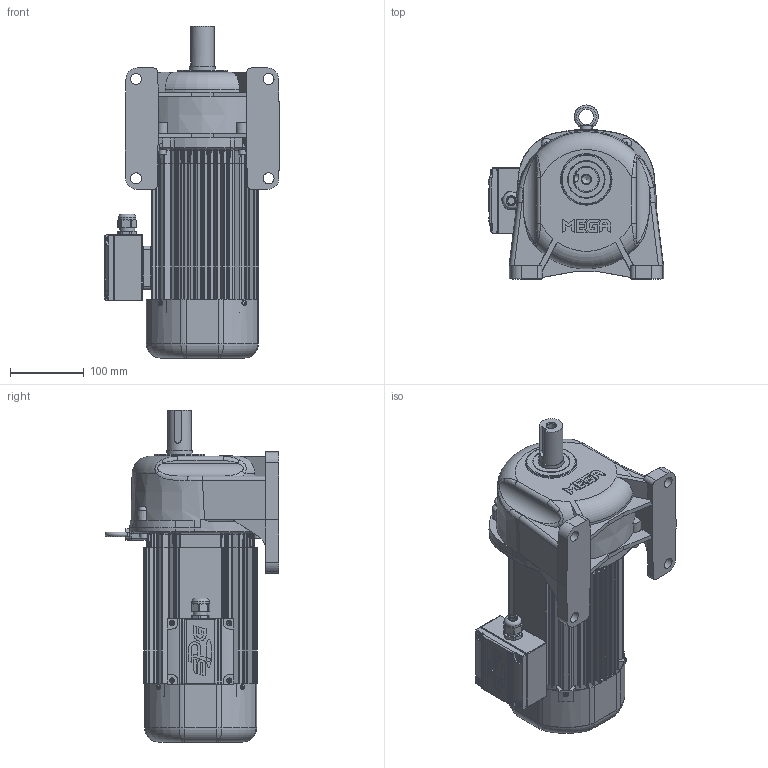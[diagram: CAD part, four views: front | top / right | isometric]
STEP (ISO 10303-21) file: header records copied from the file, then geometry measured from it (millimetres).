
FILE_DESCRIPTION(/* description */ (''),/* implementation_level */ '2;1');
FILE_NAME(/* name */ 'Z:\동력 3D 파일\PML135-(5~100)-PC(D)075[ ]L_(3D).stp',/* time_stamp */ '2021-07-28T09:32:40+09:00',/* author */ ('jaebok'),/* organization */ (''),/* preprocessor_version */ 'ST-DEVELOPER v18.1',/* originating_system */ 'Autodesk Inventor 2022',/* authorisation */ '');
FILE_SCHEMA (('AUTOMOTIVE_DESIGN { 1 0 10303 214 3 1 1 }'));
Length unit declared in the file: millimetre
Products named in the file (1): 부품1
Bounding box: 238 x 236.3 x 451 mm (x, y, z)
Volume: 2983883.2 mm3; surface area: 823361.9 mm2
Topology: 1 solids, 31 shells, 3119 faces, 8036 edges, 4832 vertices
Faces by surface type: plane 1078, cylinder 888, bspline 698, torus 256, cone 123, sphere 76
Full cylindrical faces by diameter (mm): 3.25 x1, 3.6 x4, 4 x17, 4.917 x4, 5 x15, 5.5 x4, 6 x9, 6.8 x5, 7 x13, 8 x7, 9.5 x4, 10 x5, 12 x1, 12.5 x1, 15 x5, 20 x2, 20.6 x1, 21 x2, 22 x1, 23.6 x1, 25 x1, 28 x1, 32 x2, 35 x5, 36 x1, 42 x2, 50 x2, 52 x1, 60 x1, 68 x1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
Entity records: 125036 total; most frequent: CARTESIAN_POINT 50118, ORIENTED_EDGE 15662, DIRECTION 14100, EDGE_CURVE 7831, AXIS2_PLACEMENT_3D 5537, VERTEX_POINT 4830, EDGE_LOOP 3303, FACE_OUTER_BOUND 3119
